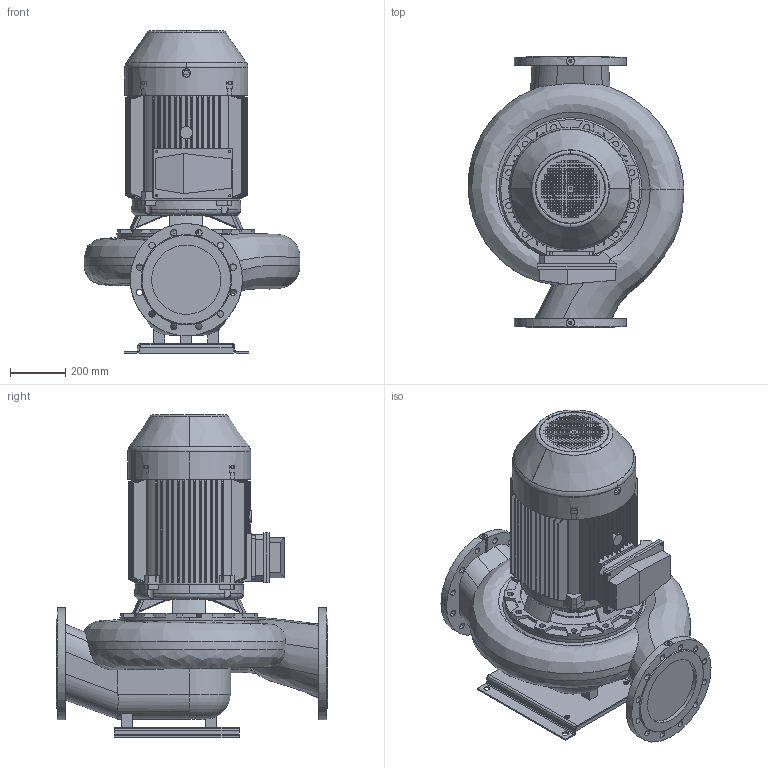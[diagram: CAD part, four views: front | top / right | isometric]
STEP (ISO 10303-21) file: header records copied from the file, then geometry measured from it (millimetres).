
FILE_DESCRIPTION(('STEP AP214'),'1');
FILE_NAME('export.stp','2018-05-28T11:20:14',(' '),(' '),'Spatial InterOp 3D',' ',' ');
FILE_SCHEMA(('AUTOMOTIVE_DESIGN { 1 0 10303 214 1 1 1 1 }'));
Length unit declared in the file: millimetre
Products named in the file (13): W_AL12504450KP225; V_TLL125SAL1250; V_PPAL1250; P100464; P100462; P101191; V_MKZ225F42; R200067; R200624; R200115; R200325; R200138; R200137
Assembly tree (13 placements, depth 3):
  W_AL12504450KP225
    V_TLL125SAL1250
    V_PPAL1250
    P100464
      P100462
      P101191  x2
    V_MKZ225F42
      R200067
      R200624
      R200115
      R200325
      R200138
      R200137
Bounding box: 779.16 x 980 x 1163 mm (x, y, z)
Volume: 129925363.3 mm3; surface area: 7532154.9 mm2
Topology: 11 solids, 11 shells, 2829 faces, 8155 edges, 5399 vertices
Faces by surface type: plane 1701, cylinder 807, cone 201, bspline 65, torus 55
Entity records: 161223 total; most frequent: CARTESIAN_POINT 32043, ORIENTED_EDGE 16122, DIRECTION 13727, STYLED_ITEM 9378, PRESENTATION_STYLE_ASSIGNMENT 9378, COLOUR_RGB 9378, EDGE_CURVE 8061, CURVE_STYLE 6571
